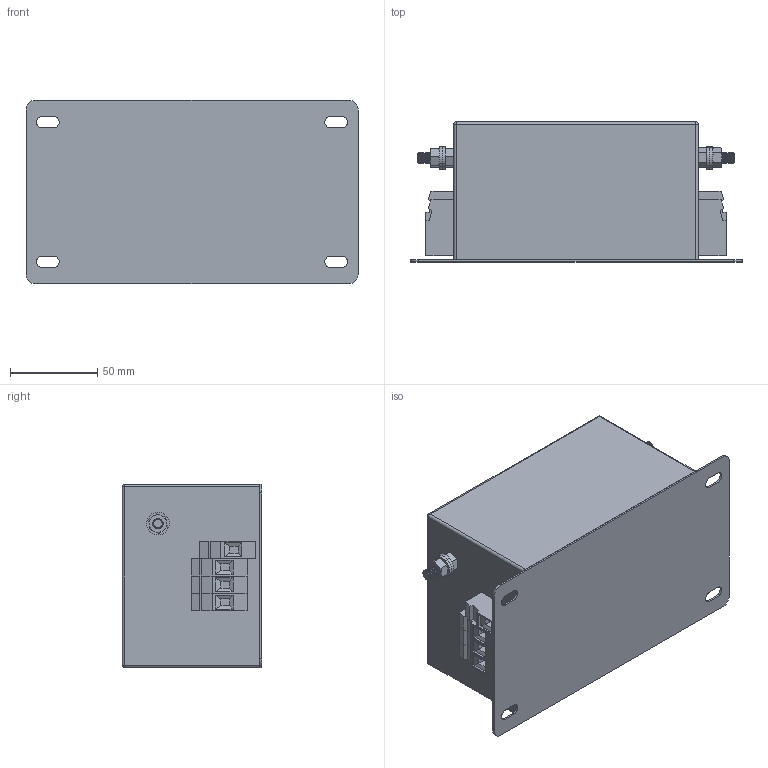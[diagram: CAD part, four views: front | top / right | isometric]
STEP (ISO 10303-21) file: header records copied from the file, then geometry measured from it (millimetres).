
FILE_DESCRIPTION (( 'STEP AP203' ), '1' );
FILE_NAME ('NF-4-16-FSK.STEP', '2013-07-12T14:12:12', ( 'Owner' ), ( 'EPA' ), 'SwSTEP 2.0', 'SolidWorks 2007', '' );
FILE_SCHEMA (( 'CONFIG_CONTROL_DESIGN' ));
Length unit declared in the file: millimetre
Products named in the file (7): Flat Washer Narrow_AM_B18.22M - Plain washer, 6 mm, narrow; Hex Nut Style 1_AM_B18.2.4.1M - Hex nut, Style 1,  M6 x 1 --D-N; NF-4-16-FSK; FSK-1; VDFK-6; M6x16 Earth post; Hex Screw_AM_B18.6.7M - M6 x 1.0 x 16 Plain HHMS --16S
Assembly tree (15 placements, depth 3):
  NF-4-16-FSK
    VDFK-6  x8
    FSK-1
    M6x16 Earth post  x2
      Hex Screw_AM_B18.6.7M - M6 x 1.0 x 16 Plain HHMS --16S
      Flat Washer Narrow_AM_B18.22M - Plain washer, 6 mm, narrow
      Hex Nut Style 1_AM_B18.2.4.1M - Hex nut, Style 1,  M6 x 1 --D-N
Bounding box: 190 x 80 x 105 mm (x, y, z)
Volume: 1189189.9 mm3; surface area: 147789.4 mm2
Topology: 18 solids, 18 shells, 792 faces, 1954 edges, 1228 vertices
Faces by surface type: plane 430, cylinder 190, cone 168, sphere 4
Entity records: 8694 total; most frequent: CARTESIAN_POINT 1470, DIRECTION 1417, ORIENTED_EDGE 1254, EDGE_CURVE 627, AXIS2_PLACEMENT_3D 555, VERTEX_POINT 392, VECTOR 307, LINE 307
